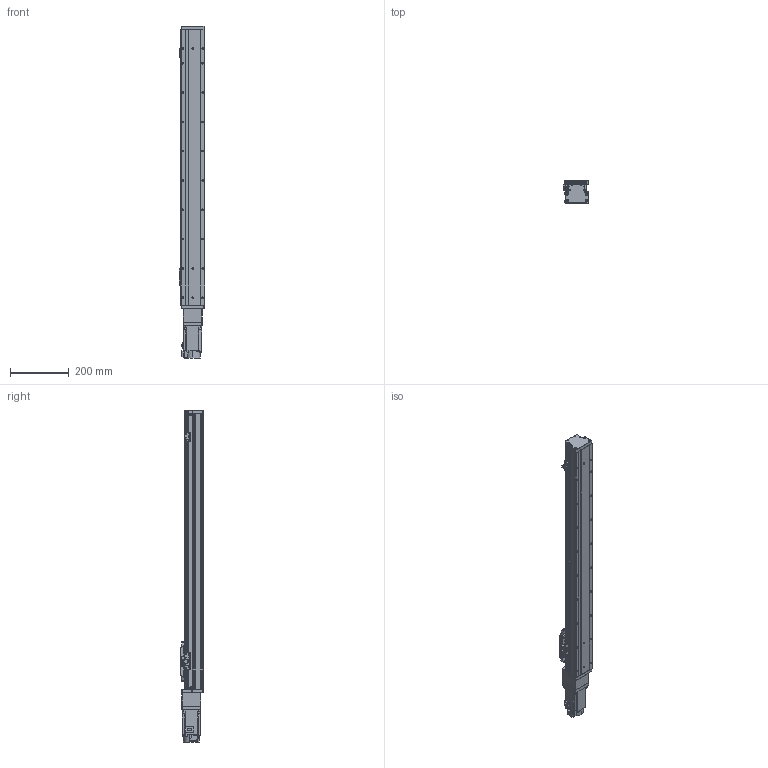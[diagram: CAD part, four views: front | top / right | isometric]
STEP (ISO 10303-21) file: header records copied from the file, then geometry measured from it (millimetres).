
FILE_DESCRIPTION (( 'STEP AP203' ), '1' );
FILE_NAME ('GTH8-750-BC-M20-C4.step', '2022-09-23T00:56:03', ( '微软用户' ), ( '微软中国' ), 'SwSTEP 2.0', 'SolidWorks 2020', '' );
FILE_SCHEMA (( 'CONFIG_CONTROL_DESIGN' ));
Length unit declared in the file: millimetre
Products named in the file (19): GBT96.1-2002 3×0.8; GTH80-022; BTH-M3X5X6; GTH80-001_750; GBT 70.1-M3℅6; CTHA86-006-1_CTHA86-006-2; GTH80-003; GBT 70.1-M4×16; CTHA86-013; GTH80-004; GTH80-028; CTHA86-027; GTH80-006; GTH50-024; hg-kn43j_-s100_; GTH80-013; GTH50-023; GTH8-750-BC-M20-C4; GBT 70.3-M3℅6
Assembly tree (60 placements, depth 2):
  GTH8-750-BC-M20-C4
    GTH80-001_750
    GTH80-003
    GTH80-004
    GTH80-006
    GTH80-013
    GBT 70.3-M3℅6  x6
    GTH80-022
    GBT 70.1-M3℅6  x14
    GBT 70.1-M4×16  x8
    GTH80-028  x2
    GTH50-024  x3
    GTH50-023  x3
    GBT96.1-2002 3×0.8  x6
    BTH-M3X5X6  x8
    CTHA86-006-1_CTHA86-006-2
    CTHA86-013
    CTHA86-027
    hg-kn43j_-s100_
Bounding box: 86.9 x 78 x 1132.7 mm (x, y, z)
Volume: 4877866.2 mm3; surface area: 498596 mm2
Topology: 62 solids, 62 shells, 2239 faces, 5152 edges, 3139 vertices
Faces by surface type: plane 1173, cylinder 609, cone 285, torus 162, sphere 8, bspline 2
Entity records: 39112 total; most frequent: CARTESIAN_POINT 6455, DIRECTION 6422, ORIENTED_EDGE 5894, EDGE_CURVE 2947, AXIS2_PLACEMENT_3D 2248, VECTOR 1926, LINE 1926, VERTEX_POINT 1852
